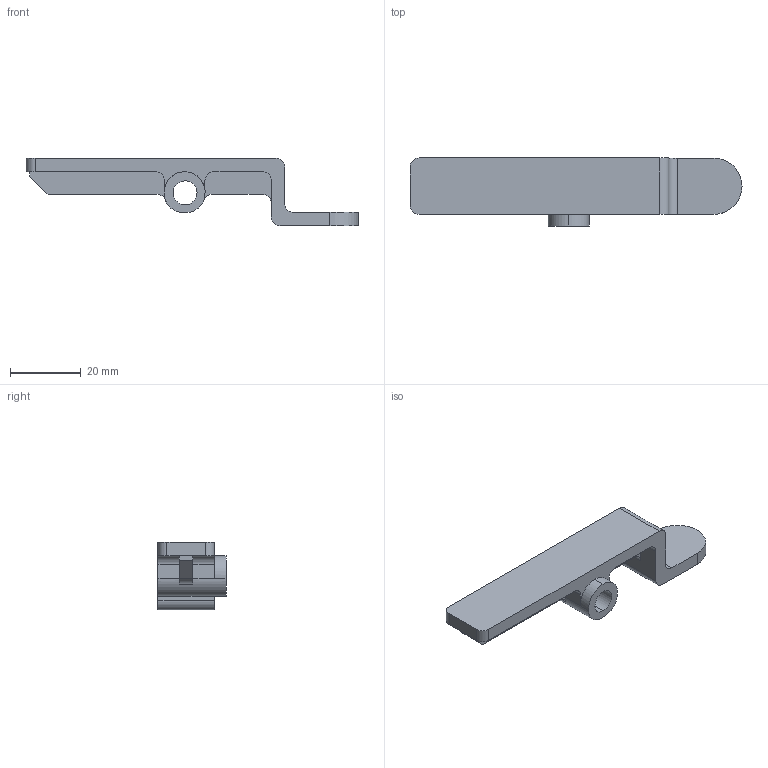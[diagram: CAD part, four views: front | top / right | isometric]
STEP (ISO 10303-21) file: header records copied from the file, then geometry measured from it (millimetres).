
FILE_DESCRIPTION (( 'STEP AP203' ), '1' );
FILE_NAME ('Lever.STEP', '2017-11-08T01:08:07', ( '' ), ( '' ), 'SwSTEP 2.0', 'SolidWorks 2016', '' );
FILE_SCHEMA (( 'CONFIG_CONTROL_DESIGN' ));
Length unit declared in the file: inch
Products named in the file (1): Lever
Bounding box: 93.54 x 19.18 x 19.05 mm (x, y, z)
Volume: 9388.1 mm3; surface area: 5831.9 mm2
Topology: 1 solids, 1 shells, 48 faces, 134 edges, 88 vertices
Faces by surface type: plane 27, cylinder 21
Entity records: 1637 total; most frequent: DIRECTION 280, CARTESIAN_POINT 271, ORIENTED_EDGE 268, EDGE_CURVE 134, AXIS2_PLACEMENT_3D 97, VERTEX_POINT 88, LINE 86, VECTOR 86
